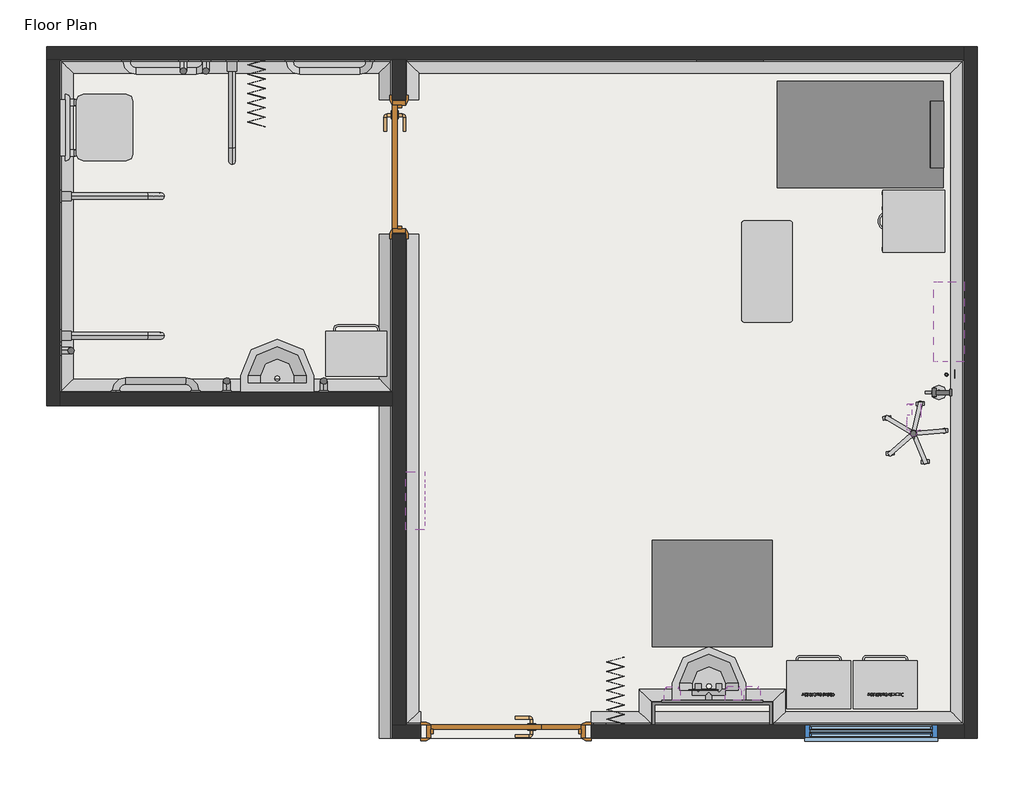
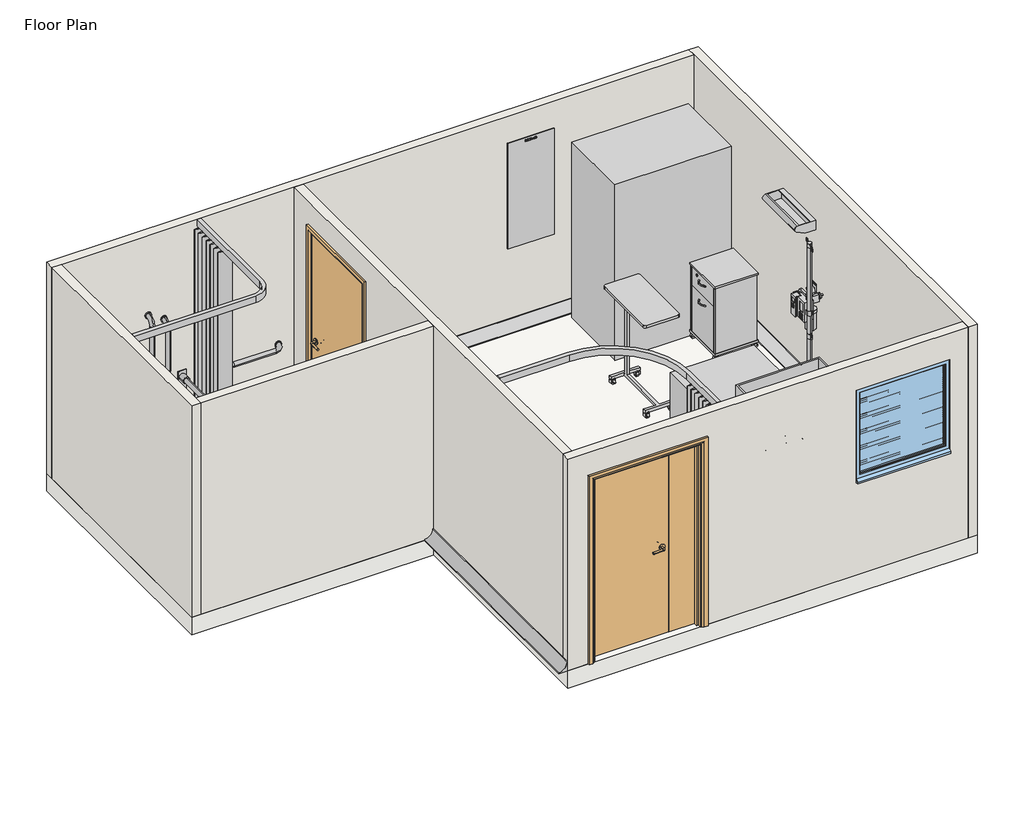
# One storey, incomplete: 28 proxies, 11 furniture elements, 6 walls, 3 flow terminals, 2 doors, 1 light fixture, 1 slab, 1 window.
"""IFC4 building model written with IfcOpenShell, lengths in millimetres."""

from ifc_helpers import new_model, si_unit, frame, origin, place, context, project, spatial, polyline, circle_curve, ellipse_curve, outline, extrude, faceted_brep, transform, mapped, element, save
from ifc_brep_helpers import plane_surface, revolved_surface, advanced_brep
from components import generic_models_eee01dc3, generic_models_69a9413b, generic_models_23b3e7a1, generic_models_51914271, generic_models_60647dcf, generic_models_1c4e6ef4, generic_models_2748bf89, generic_models_abbf64a3, generic_models_7e8e4800, bimhealth_electrical_light_switch_v1_type_1_b5e59f8a, type_1_021b8e3e, type_1_3e4eb001, type_1_04eb1ea4, door_1010x2110mm_ad0e13af, bimhealth_door_and_half_1210x2110mm_sgl_swing_70a7d20a, flow_terminal_30861e1c, flow_terminal_004a381b, furniture_785aeefc, furniture_cd7ab82e, furniture_29951476, furniture_c6a9ce10, furniture_a2a9e1b6, furniture_0702ecbf, furniture_385ba860, furniture_166ce8d1, furniture_26d36cfe, furniture_197fe330, furniture_610823a6, type_1_dfacdb5c, window_e51dcf83

model = new_model("IFC4")

# Units and contexts
model_context = context("Model", 3, world=origin())
ifc_project = project(units=[si_unit("LENGTHUNIT", "METRE", prefix="MILLI")], contexts=[model_context])

# Site, building, storey
site = spatial("IfcSite", under=ifc_project)
building = spatial("IfcBuilding", under=site)
storey = spatial("IfcBuildingStorey", under=building, Name="Floor Plan", Elevation=0.0)

# Proxies
placement = place(None, origin())
element("IfcBuildingElementProxy", 1, Name="Wall Sweeps", at=placement, inside=storey, context=model_context, shape_type="AdvancedBrep", body=[
    advanced_brep(
    [(6305.0, 5415.0, 0.0), (6205.0, 5315.0, 0.0), (6205.0, 5315.0, 10.0), (6295.0, 5405.0, 100.0), (6305.0, 5415.0, 100.0), (6305.0, 415.0, 0.0), (6305.0, 415.0, 100.0), (6295.0, 425.0, 100.0), (6205.0, 515.0, 10.0), (6205.0, 515.0, 0.0)],
    [
        (0, 1),
        (1, 2),
        (2, 3, ellipse_curve(frame((6205.0, 5315.0, 100.0), z_axis=(0.7071067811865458, -0.7071067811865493, 0.0), x_axis=(-0.7071067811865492, -0.7071067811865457, 0.0)), 127.2792206, 90.0)),
        (3, 4),
        (4, 0),
        (5, 6),
        (6, 7),
        (7, 8, ellipse_curve(frame((6205.0, 515.0, 100.0), z_axis=(0.7071067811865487, 0.7071067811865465, 0.0), x_axis=(0.7071067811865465, -0.7071067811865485, 0.0)), 127.2792206, 90.0)),
        (8, 9),
        (9, 5),
        (0, 5),
        (9, 1),
        (8, 2),
        (7, 3),
        (6, 4),
    ],
    [
        plane_surface(frame((6305.0, 5415.0, 304.8), z_axis=(-0.7071067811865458, 0.7071067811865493, 0.0), x_axis=(-0.7071067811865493, -0.7071067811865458, 0.0))),
        plane_surface(frame((6305.0, 415.0, 304.8), z_axis=(-0.7071067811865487, -0.7071067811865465, 0.0), x_axis=(-0.7071067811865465, 0.7071067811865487, 0.0))),
        plane_surface(frame((6305.0, 5415.0, 0.0), z_axis=(0.0, 0.0, -1.0), x_axis=(0.0, -1.0, 0.0))),
        plane_surface(frame((6205.0, 5315.0, 0.0), z_axis=(-1.0, 0.0, 0.0), x_axis=(0.0, -1.0, 0.0))),
        revolved_surface(polyline([(6115.0, 425.0, 100.0), (6115.0, 5405.0, 100.0)]), (6205.0, 5415.0, 100.0), (0.0, -1.0, 0.0)),
        plane_surface(frame((6295.0, 5405.0, 100.0), z_axis=(0.0, 0.0, 1.0), x_axis=(0.0, -1.0, 0.0))),
        plane_surface(frame((6305.0, 5415.0, 100.0), z_axis=(1.0, 0.0, 0.0), x_axis=(0.0, -1.0, 0.0))),
    ],
    [
        (0, [[1, 2, 3, 4, 5]]),
        (1, [[6, 7, 8, 9, 10]]),
        (2, [[-1, 11, -10, 12]]),
        (3, [[-2, -12, -9, 13]]),
        (4, [[-3, -13, -8, 14]]),
        (5, [[-4, -14, -7, 15]]),
        (6, [[-5, -15, -6, -11]]),
    ],
),
])
element("IfcBuildingElementProxy", 2, Name="Wall Sweeps", at=placement, inside=storey, context=model_context, shape_type="AdvancedBrep", body=[
    advanced_brep(
    [(2220.0, 415.0, 0.0), (2220.0, 515.0, 0.0), (2220.0, 515.0, 10.0), (2220.0, 425.0, 100.0), (2220.0, 415.0, 100.0), (2105.0, 415.0, 0.0), (2105.0, 415.0, 100.0), (2115.0, 425.0, 100.0), (2205.0, 515.0, 10.0), (2205.0, 515.0, 0.0)],
    [
        (0, 1),
        (1, 2),
        (2, 3, circle_curve(frame((2220.0, 515.0, 100.0), z_axis=(-1.0, 0.0, 0.0), x_axis=(0.0, 1.0, 0.0)), 90.0)),
        (3, 4),
        (4, 0),
        (5, 6),
        (6, 7),
        (7, 8, ellipse_curve(frame((2205.0, 515.0, 100.0), z_axis=(0.7071067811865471, -0.707106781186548, 0.0), x_axis=(-0.7071067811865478, -0.7071067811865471, 0.0)), 127.2792206, 90.0)),
        (8, 9),
        (9, 5),
        (0, 5),
        (9, 1),
        (8, 2),
        (7, 3),
        (6, 4),
    ],
    [
        plane_surface(frame((2220.0, 415.0, -100.4987562), z_axis=(1.0, 0.0, 0.0), x_axis=(0.0, -1.0, 0.0))),
        plane_surface(frame((2105.0, 415.0, 304.8), z_axis=(-0.7071067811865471, 0.707106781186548, 0.0), x_axis=(0.707106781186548, 0.7071067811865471, 0.0))),
        plane_surface(frame((2220.0, 415.0, 0.0), z_axis=(0.0, 0.0, -1.0), x_axis=(-1.0, 0.0, 0.0))),
        plane_surface(frame((2220.0, 515.0, 0.0), z_axis=(0.0, 1.0, 0.0), x_axis=(-1.0, 0.0, 0.0))),
        revolved_surface(polyline([(2115.0, 605.0, 100.0), (2294.9999999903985, 605.0, 100.0)]), (2220.0, 515.0, 100.0), (-1.0, 0.0, 0.0)),
        plane_surface(frame((2220.0, 425.0, 100.0), z_axis=(0.0, 0.0, 1.0), x_axis=(-1.0, 0.0, 0.0))),
        plane_surface(frame((2220.0, 415.0, 100.0), z_axis=(0.0, -1.0, 0.0), x_axis=(-1.0, 0.0, 0.0))),
    ],
    [
        (0, [[1, 2, 3, 4, 5]]),
        (1, [[6, 7, 8, 9, 10]]),
        (2, [[-1, 11, -10, 12]]),
        (3, [[-2, -12, -9, 13]]),
        (4, [[-3, -13, -8, 14]]),
        (5, [[-4, -14, -7, 15]]),
        (6, [[-5, -15, -6, -11]]),
    ],
),
    advanced_brep(
    [(6305.0, 415.0, 0.0), (6205.0, 515.0, 0.0), (6205.0, 515.0, 10.0), (6295.0, 425.0, 100.0), (6305.0, 415.0, 100.0), (3500.0, 415.0, 0.0), (3500.0, 415.0, 100.0), (3500.0, 425.0, 100.0), (3500.0, 515.0, 10.0), (3500.0, 515.0, 0.0)],
    [
        (0, 1),
        (1, 2),
        (2, 3, ellipse_curve(frame((6205.0, 515.0, 100.0), z_axis=(-0.7071067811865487, -0.7071067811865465, 0.0), x_axis=(-0.7071067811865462, 0.7071067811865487, 0.0)), 127.2792206, 90.0)),
        (3, 4),
        (4, 0),
        (5, 6),
        (6, 7),
        (7, 8, circle_curve(frame((3500.0, 515.0, 100.0), z_axis=(1.0, 0.0, 0.0), x_axis=(0.0, 1.0, 0.0)), 90.0)),
        (8, 9),
        (9, 5),
        (0, 5),
        (9, 1),
        (8, 2),
        (7, 3),
        (6, 4),
    ],
    [
        plane_surface(frame((6305.0, 415.0, 304.8), z_axis=(0.7071067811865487, 0.7071067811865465, 0.0), x_axis=(-0.7071067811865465, 0.7071067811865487, 0.0))),
        plane_surface(frame((3500.0, 415.0, -100.4987562), z_axis=(-1.0, 0.0, 0.0), x_axis=(0.0, -1.0, 0.0))),
        plane_surface(frame((6305.0, 415.0, 0.0), z_axis=(0.0, 0.0, -1.0), x_axis=(-1.0, 0.0, 0.0))),
        plane_surface(frame((6205.0, 515.0, 0.0), z_axis=(0.0, 1.0, 0.0), x_axis=(-1.0, 0.0, 0.0))),
        revolved_surface(polyline([(3500.0, 605.0, 100.0), (6295.0, 605.0, 100.0)]), (6305.0, 515.0, 100.0), (-1.0, 0.0, 0.0)),
        plane_surface(frame((6295.0, 425.0, 100.0), z_axis=(0.0, 0.0, 1.0), x_axis=(-1.0, 0.0, 0.0))),
        plane_surface(frame((6305.0, 415.0, 100.0), z_axis=(0.0, -1.0, 0.0), x_axis=(-1.0, 0.0, 0.0))),
    ],
    [
        (0, [[1, 2, 3, 4, 5]]),
        (1, [[6, 7, 8, 9, 10]]),
        (2, [[-1, 11, -10, 12]]),
        (3, [[-2, -12, -9, 13]]),
        (4, [[-3, -13, -8, 14]]),
        (5, [[-4, -14, -7, 15]]),
        (6, [[-5, -15, -6, -11]]),
    ],
),
])
element("IfcBuildingElementProxy", 3, Name="Wall Sweeps", at=placement, inside=storey, context=model_context, shape_type="AdvancedBrep", body=[
    advanced_brep(
    [(2105.0, 415.0, 0.0), (2205.0, 515.0, 0.0), (2205.0, 515.0, 10.0), (2115.0, 425.0, 100.0), (2105.0, 415.0, 100.0), (2105.0, 4105.0, 0.0), (2105.0, 4105.0, 100.0), (2115.0, 4105.0, 100.0), (2205.0, 4105.0, 10.0), (2205.0, 4105.0, 0.0)],
    [
        (0, 1),
        (1, 2),
        (2, 3, ellipse_curve(frame((2205.0, 515.0, 100.0), z_axis=(-0.7071067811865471, 0.707106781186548, 0.0), x_axis=(0.707106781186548, 0.7071067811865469, 0.0)), 127.2792206, 90.0)),
        (3, 4),
        (4, 0),
        (5, 6),
        (6, 7),
        (7, 8, circle_curve(frame((2205.0, 4105.0, 100.0), z_axis=(0.0, -1.0, 0.0), x_axis=(1.0, 0.0, 0.0)), 90.0)),
        (8, 9),
        (9, 5),
        (0, 5),
        (9, 1),
        (8, 2),
        (7, 3),
        (6, 4),
    ],
    [
        plane_surface(frame((2105.0, 415.0, 304.8), z_axis=(0.7071067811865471, -0.707106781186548, 0.0), x_axis=(0.707106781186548, 0.7071067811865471, 0.0))),
        plane_surface(frame((2004.5012438, 4105.0, 0.0), z_axis=(0.0, 1.0, 0.0), x_axis=(0.0, 0.0, 1.0))),
        plane_surface(frame((2105.0, 415.0, 0.0), z_axis=(0.0, 0.0, -1.0), x_axis=(0.0, 1.0, 0.0))),
        plane_surface(frame((2205.0, 515.0, 0.0), z_axis=(1.0, 0.0, 0.0), x_axis=(0.0, 1.0, 0.0))),
        revolved_surface(polyline([(2295.0, 4105.0, 100.0), (2295.0, 425.0, 100.0)]), (2205.0, 415.0, 100.0), (0.0, 1.0, 0.0)),
        plane_surface(frame((2115.0, 425.0, 100.0), z_axis=(0.0, 0.0, 1.0), x_axis=(0.0, 1.0, 0.0))),
        plane_surface(frame((2105.0, 415.0, 100.0), z_axis=(-1.0, 0.0, 0.0), x_axis=(0.0, 1.0, 0.0))),
    ],
    [
        (0, [[1, 2, 3, 4, 5]]),
        (1, [[6, 7, 8, 9, 10]]),
        (2, [[-1, 11, -10, 12]]),
        (3, [[-2, -12, -9, 13]]),
        (4, [[-3, -13, -8, 14]]),
        (5, [[-4, -14, -7, 15]]),
        (6, [[-5, -15, -6, -11]]),
    ],
),
    advanced_brep(
    [(2105.0, 5115.0, 0.0), (2205.0, 5115.0, 0.0), (2205.0, 5115.0, 10.0), (2115.0, 5115.0, 100.0), (2105.0, 5115.0, 100.0), (2105.0, 5415.0, 0.0), (2105.0, 5415.0, 100.0), (2115.0, 5415.0, 100.0), (2205.0, 5415.0, 10.0), (2205.0, 5415.0, 0.0)],
    [
        (0, 1),
        (1, 2),
        (2, 3, circle_curve(frame((2205.0, 5115.0, 100.0), z_axis=(0.0, 1.0, 0.0), x_axis=(1.0, 0.0, 0.0)), 90.0)),
        (3, 4),
        (4, 0),
        (5, 6),
        (6, 7),
        (7, 8, circle_curve(frame((2205.0, 5415.0, 100.0), z_axis=(0.0, -1.0, 0.0), x_axis=(1.0, 0.0, 0.0)), 90.0)),
        (8, 9),
        (9, 5),
        (0, 5),
        (9, 1),
        (8, 2),
        (7, 3),
        (6, 4),
    ],
    [
        plane_surface(frame((2004.5012438, 5115.0, 0.0), z_axis=(0.0, -1.0, 0.0), x_axis=(0.0, 0.0, 1.0))),
        plane_surface(frame((2004.5012438, 5415.0, 0.0), z_axis=(0.0, 1.0, 0.0), x_axis=(0.0, 0.0, 1.0))),
        plane_surface(frame((2105.0, 5115.0, 0.0), z_axis=(0.0, 0.0, -1.0), x_axis=(0.0, 1.0, 0.0))),
        plane_surface(frame((2205.0, 5115.0, 0.0), z_axis=(1.0, 0.0, 0.0), x_axis=(0.0, 1.0, 0.0))),
        revolved_surface(polyline([(2295.0, 5415.0, 100.0), (2295.0, 5115.0, 100.0)]), (2205.0, 5115.0, 100.0), (0.0, 1.0, 0.0)),
        plane_surface(frame((2115.0, 5115.0, 100.0), z_axis=(0.0, 0.0, 1.0), x_axis=(0.0, 1.0, 0.0))),
        plane_surface(frame((2105.0, 5115.0, 100.0), z_axis=(-1.0, 0.0, 0.0), x_axis=(0.0, 1.0, 0.0))),
    ],
    [
        (0, [[1, 2, 3, 4, 5]]),
        (1, [[6, 7, 8, 9, 10]]),
        (2, [[-1, 11, -10, 12]]),
        (3, [[-2, -12, -9, 13]]),
        (4, [[-3, -13, -8, 14]]),
        (5, [[-4, -14, -7, 15]]),
        (6, [[-5, -15, -6, -11]]),
    ],
),
])
element("IfcBuildingElementProxy", 4, Name="Wall Sweeps", at=placement, inside=storey, context=model_context, shape_type="AdvancedBrep", body=[
    advanced_brep(
    [(-495.0, 5415.0, 0.0), (-395.0, 5315.0, 0.0), (-395.0, 5315.0, 10.0), (-485.0, 5405.0, 100.0), (-495.0, 5415.0, 100.0), (6305.0, 5415.0, 0.0), (6305.0, 5415.0, 100.0), (6295.0, 5405.0, 100.0), (6205.0, 5315.0, 10.0), (6205.0, 5315.0, 0.0)],
    [
        (0, 1),
        (1, 2),
        (2, 3, ellipse_curve(frame((-395.0, 5315.0, 100.0), z_axis=(0.7071067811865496, 0.7071067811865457, 0.0), x_axis=(0.7071067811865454, -0.7071067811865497, 0.0)), 127.2792206, 90.0)),
        (3, 4),
        (4, 0),
        (5, 6),
        (6, 7),
        (7, 8, ellipse_curve(frame((6205.0, 5315.0, 100.0), z_axis=(-0.7071067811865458, 0.7071067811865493, 0.0), x_axis=(0.7071067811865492, 0.7071067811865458, 0.0)), 127.2792206, 90.0)),
        (8, 9),
        (9, 5),
        (0, 5),
        (9, 1),
        (8, 2),
        (7, 3),
        (6, 4),
    ],
    [
        plane_surface(frame((-495.0, 5415.0, 304.8), z_axis=(-0.7071067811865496, -0.7071067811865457, 0.0), x_axis=(0.7071067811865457, -0.7071067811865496, 0.0))),
        plane_surface(frame((6305.0, 5415.0, 304.8), z_axis=(0.7071067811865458, -0.7071067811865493, 0.0), x_axis=(-0.7071067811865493, -0.7071067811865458, 0.0))),
        plane_surface(frame((-495.0, 5415.0, 0.0), z_axis=(0.0, 0.0, -1.0), x_axis=(1.0, 0.0, 0.0))),
        plane_surface(frame((-395.0, 5315.0, 0.0), z_axis=(0.0, -1.0, 0.0), x_axis=(1.0, 0.0, 0.0))),
        revolved_surface(polyline([(6295.0, 5225.0, 100.0), (-485.0, 5225.0, 100.0)]), (-495.0, 5315.0, 100.0), (1.0, 0.0, 0.0)),
        plane_surface(frame((-485.0, 5405.0, 100.0), z_axis=(0.0, 0.0, 1.0), x_axis=(1.0, 0.0, 0.0))),
        plane_surface(frame((-495.0, 5415.0, 100.0), z_axis=(0.0, 1.0, 0.0), x_axis=(1.0, 0.0, 0.0))),
    ],
    [
        (0, [[1, 2, 3, 4, 5]]),
        (1, [[6, 7, 8, 9, 10]]),
        (2, [[-1, 11, -10, 12]]),
        (3, [[-2, -12, -9, 13]]),
        (4, [[-3, -13, -8, 14]]),
        (5, [[-4, -14, -7, 15]]),
        (6, [[-5, -15, -6, -11]]),
    ],
),
])
element("IfcBuildingElementProxy", 5, Name="Wall Sweeps", at=placement, inside=storey, context=model_context, shape_type="AdvancedBrep", body=[
    advanced_brep(
    [(-495.0, 5415.0, 0.0), (-495.0, 5415.0, 100.0), (-485.0, 5405.0, 100.0), (-395.0, 5315.0, 10.0), (-395.0, 5315.0, 0.0), (-495.0, 2915.0, 0.0), (-395.0, 3015.0, 0.0), (-395.0, 3015.0, 10.0), (-485.0, 2925.0, 100.0), (-495.0, 2915.0, 100.0)],
    [
        (0, 1),
        (1, 2),
        (2, 3, ellipse_curve(frame((-395.0, 5315.0, 100.0), z_axis=(-0.7071067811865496, -0.7071067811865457, 0.0), x_axis=(0.7071067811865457, -0.7071067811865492, 0.0)), 127.2792206, 90.0)),
        (3, 4),
        (4, 0),
        (5, 6),
        (6, 7),
        (7, 8, ellipse_curve(frame((-395.0, 3015.0, 100.0), z_axis=(-0.707106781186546, 0.7071067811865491, 0.0), x_axis=(-0.7071067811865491, -0.7071067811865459, 0.0)), 127.2792206, 90.0)),
        (8, 9),
        (9, 5),
        (0, 5),
        (9, 1),
        (8, 2),
        (7, 3),
        (6, 4),
    ],
    [
        plane_surface(frame((-495.0, 5415.0, -304.8), z_axis=(0.7071067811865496, 0.7071067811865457, 0.0), x_axis=(0.7071067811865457, -0.7071067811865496, 0.0))),
        plane_surface(frame((-495.0, 2915.0, -304.8), z_axis=(0.707106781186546, -0.7071067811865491, 0.0), x_axis=(0.7071067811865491, 0.707106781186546, 0.0))),
        plane_surface(frame((-495.0, 5415.0, 0.0), z_axis=(-1.0, 0.0, 0.0), x_axis=(0.0, -1.0, 0.0))),
        plane_surface(frame((-495.0, 5415.0, 100.0), z_axis=(0.0, 0.0, 1.0), x_axis=(0.0, -1.0, 0.0))),
        revolved_surface(polyline([(-305.0, 2925.0, 100.0), (-305.0, 5405.0, 100.0)]), (-395.0, 5415.0, 100.0), (0.0, -1.0, 0.0)),
        plane_surface(frame((-395.0, 5315.0, 10.0), z_axis=(1.0, 0.0, 0.0), x_axis=(0.0, -1.0, 0.0))),
        plane_surface(frame((-395.0, 5315.0, 0.0), z_axis=(0.0, 0.0, -1.0), x_axis=(0.0, -1.0, 0.0))),
    ],
    [
        (0, [[1, 2, 3, 4, 5]]),
        (1, [[6, 7, 8, 9, 10]]),
        (2, [[-1, 11, -10, 12]]),
        (3, [[-2, -12, -9, 13]]),
        (4, [[-3, -13, -8, 14]]),
        (5, [[-4, -14, -7, 15]]),
        (6, [[-5, -15, -6, -11]]),
    ],
),
])
element("IfcBuildingElementProxy", 6, Name="Wall Sweeps", at=placement, inside=storey, context=model_context, shape_type="AdvancedBrep", body=[
    advanced_brep(
    [(-495.0, 2915.0, 0.0), (-495.0, 2915.0, 100.0), (-485.0, 2925.0, 100.0), (-395.0, 3015.0, 10.0), (-395.0, 3015.0, 0.0), (2005.0, 2915.0, 0.0), (2005.0, 3015.0, 0.0), (2005.0, 3015.0, 10.0), (2005.0, 2925.0, 100.0), (2005.0, 2915.0, 100.0)],
    [
        (0, 1),
        (1, 2),
        (2, 3, ellipse_curve(frame((-395.0, 3015.0, 100.0), z_axis=(0.707106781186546, -0.7071067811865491, 0.0), x_axis=(0.707106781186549, 0.707106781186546, 0.0)), 127.2792206, 90.0)),
        (3, 4),
        (4, 0),
        (5, 6),
        (6, 7),
        (7, 8, circle_curve(frame((2005.0, 3015.0, 100.0), z_axis=(-1.0, 0.0, 0.0), x_axis=(0.0, 1.0, 0.0)), 90.0)),
        (8, 9),
        (9, 5),
        (0, 5),
        (9, 1),
        (8, 2),
        (7, 3),
        (6, 4),
    ],
    [
        plane_surface(frame((-495.0, 2915.0, -304.8), z_axis=(-0.707106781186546, 0.7071067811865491, 0.0), x_axis=(0.7071067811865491, 0.707106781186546, 0.0))),
        plane_surface(frame((2005.0, 2915.0, -100.4987562), z_axis=(1.0, 0.0, 0.0), x_axis=(0.0, 1.0, 0.0))),
        plane_surface(frame((-495.0, 2915.0, 0.0), z_axis=(0.0, -1.0, 0.0), x_axis=(1.0, 0.0, 0.0))),
        plane_surface(frame((-495.0, 2915.0, 100.0), z_axis=(0.0, 0.0, 1.0), x_axis=(1.0, 0.0, 0.0))),
        revolved_surface(polyline([(2005.0, 3105.0, 100.0), (-485.0, 3105.0, 100.0)]), (-495.0, 3015.0, 100.0), (1.0, 0.0, 0.0)),
        plane_surface(frame((-395.0, 3015.0, 10.0), z_axis=(0.0, 1.0, 0.0), x_axis=(1.0, 0.0, 0.0))),
        plane_surface(frame((-395.0, 3015.0, 0.0), z_axis=(0.0, 0.0, -1.0), x_axis=(1.0, 0.0, 0.0))),
    ],
    [
        (0, [[1, 2, 3, 4, 5]]),
        (1, [[6, 7, 8, 9, 10]]),
        (2, [[-1, 11, -10, 12]]),
        (3, [[-2, -12, -9, 13]]),
        (4, [[-3, -13, -8, 14]]),
        (5, [[-4, -14, -7, 15]]),
        (6, [[-5, -15, -6, -11]]),
    ],
),
])
element("IfcBuildingElementProxy", 7, Name="Wall Sweeps", at=placement, inside=storey, context=model_context, shape_type="AdvancedBrep", body=[
    advanced_brep(
    [(2005.0, 315.0, 0.0), (2005.0, 315.0, 100.0), (1995.0, 315.0, 100.0), (1905.0, 315.0, 10.0), (1905.0, 315.0, 0.0), (2005.0, 4105.0, 0.0), (1905.0, 4105.0, 0.0), (1905.0, 4105.0, 10.0), (1995.0, 4105.0, 100.0), (2005.0, 4105.0, 100.0), (2005.0, 415.0, 0.0)],
    [
        (0, 1),
        (1, 2),
        (2, 3, circle_curve(frame((1905.0, 315.0, 100.0), z_axis=(0.0, 1.0, 0.0), x_axis=(-1.0, 0.0, 0.0)), 90.0)),
        (3, 4),
        (4, 0),
        (5, 6),
        (6, 7),
        (7, 8, circle_curve(frame((1905.0, 4105.0, 100.0), z_axis=(0.0, -1.0, 0.0), x_axis=(-1.0, 0.0, 0.0)), 90.0)),
        (8, 9),
        (9, 5),
        (0, 10),
        (10, 5),
        (9, 1),
        (8, 2),
        (7, 3),
        (6, 4),
    ],
    [
        plane_surface(frame((1904.5012438, 315.0, 0.0), z_axis=(0.0, -1.0, 0.0), x_axis=(0.0, 0.0, 1.0))),
        plane_surface(frame((1904.5012438, 4105.0, 0.0), z_axis=(0.0, 1.0, 0.0), x_axis=(0.0, 0.0, 1.0))),
        plane_surface(frame((2005.0, 315.0, 0.0), z_axis=(1.0, 0.0, 0.0), x_axis=(0.0, 1.0, 0.0))),
        plane_surface(frame((2005.0, 315.0, 100.0), z_axis=(0.0, 0.0, 1.0), x_axis=(0.0, 1.0, 0.0))),
        revolved_surface(polyline([(1815.0, 4105.0, 100.0), (1815.0, 315.0, 100.0)]), (1905.0, 315.0, 100.0), (0.0, 1.0, 0.0)),
        plane_surface(frame((1905.0, 315.0, 10.0), z_axis=(-1.0, 0.0, 0.0), x_axis=(0.0, 1.0, 0.0))),
        plane_surface(frame((1905.0, 315.0, 0.0), z_axis=(0.0, 0.0, -1.0), x_axis=(0.0, 1.0, 0.0))),
    ],
    [
        (0, [[1, 2, 3, 4, 5]]),
        (1, [[6, 7, 8, 9, 10]]),
        (2, [[-1, 11, 12, -10, 13]]),
        (3, [[-2, -13, -9, 14]]),
        (4, [[-3, -14, -8, 15]]),
        (5, [[-4, -15, -7, 16]]),
        (6, [[-5, -16, -6, -12, -11]]),
    ],
),
    advanced_brep(
    [(2005.0, 5115.0, 0.0), (2005.0, 5115.0, 100.0), (1995.0, 5115.0, 100.0), (1905.0, 5115.0, 10.0), (1905.0, 5115.0, 0.0), (2005.0, 5415.0, 0.0), (1905.0, 5415.0, 0.0), (1905.0, 5415.0, 10.0), (1995.0, 5415.0, 100.0), (2005.0, 5415.0, 100.0)],
    [
        (0, 1),
        (1, 2),
        (2, 3, circle_curve(frame((1905.0, 5115.0, 100.0), z_axis=(0.0, 1.0, 0.0), x_axis=(-1.0, 0.0, 0.0)), 90.0)),
        (3, 4),
        (4, 0),
        (5, 6),
        (6, 7),
        (7, 8, circle_curve(frame((1905.0, 5415.0, 100.0), z_axis=(0.0, -1.0, 0.0), x_axis=(-1.0, 0.0, 0.0)), 90.0)),
        (8, 9),
        (9, 5),
        (0, 5),
        (9, 1),
        (8, 2),
        (7, 3),
        (6, 4),
    ],
    [
        plane_surface(frame((1904.5012438, 5115.0, 0.0), z_axis=(0.0, -1.0, 0.0), x_axis=(0.0, 0.0, 1.0))),
        plane_surface(frame((1904.5012438, 5415.0, 0.0), z_axis=(0.0, 1.0, 0.0), x_axis=(0.0, 0.0, 1.0))),
        plane_surface(frame((2005.0, 5115.0, 0.0), z_axis=(1.0, 0.0, 0.0), x_axis=(0.0, 1.0, 0.0))),
        plane_surface(frame((2005.0, 5115.0, 100.0), z_axis=(0.0, 0.0, 1.0), x_axis=(0.0, 1.0, 0.0))),
        revolved_surface(polyline([(1815.0, 5415.0, 100.0), (1815.0, 5115.0, 100.0)]), (1905.0, 5115.0, 100.0), (0.0, 1.0, 0.0)),
        plane_surface(frame((1905.0, 5115.0, 10.0), z_axis=(-1.0, 0.0, 0.0), x_axis=(0.0, 1.0, 0.0))),
        plane_surface(frame((1905.0, 5115.0, 0.0), z_axis=(0.0, 0.0, -1.0), x_axis=(0.0, 1.0, 0.0))),
    ],
    [
        (0, [[1, 2, 3, 4, 5]]),
        (1, [[6, 7, 8, 9, 10]]),
        (2, [[-1, 11, -10, 12]]),
        (3, [[-2, -12, -9, 13]]),
        (4, [[-3, -13, -8, 14]]),
        (5, [[-4, -14, -7, 15]]),
        (6, [[-5, -15, -6, -11]]),
    ],
),
])
generic_models_shape = generic_models_eee01dc3(model_context)
element("IfcBuildingElementProxy", 8, Name="BIMHealth-Table_Overbed-LOD2A-v1 : BIMHealth-Table_Overbed-LOD2A-v1", ObjectType="BIMHealth-Table_Overbed-LOD2A-v1 : BIMHealth-Table_Overbed-LOD2A-v1", at=placement, inside=storey, context=model_context, shape_type="MappedRepresentation", body=[
    mapped(generic_models_shape, transform((5013.7834569, 4204.5, 0.0), x_axis=(0.0, -1.0000000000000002, 0.0), y_axis=(1.0000000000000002, 0.0, 0.0), z_axis=(0.0, 0.0, 1.0))),
])
generic_models_2_shape = generic_models_69a9413b(model_context)
element("IfcBuildingElementProxy", 9, Name="BIMHealth-Drip_Stand-LOD2A-v1 : BIMHealth-Drip_Stand-LOD2A-v1", ObjectType="BIMHealth-Drip_Stand-LOD2A-v1 : BIMHealth-Drip_Stand-LOD2A-v1", at=placement, inside=storey, context=model_context, shape_type="MappedRepresentation", body=[
    mapped(generic_models_2_shape, transform((5923.0037354, 2605.3435148, 0.0), x_axis=(-0.08715574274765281, 0.9961946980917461, 0.0), y_axis=(-0.9961946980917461, -0.08715574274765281, 0.0), z_axis=(0.0, 0.0, 1.0))),
])
generic_models_3_shape = generic_models_23b3e7a1(model_context)
element("IfcBuildingElementProxy", 10, Name="BIMHealth-IV_Pump-LOD2A-v1 : BIMHealth-IV_Pump-LOD2A-v1", ObjectType="BIMHealth-IV_Pump-LOD2A-v1 : BIMHealth-IV_Pump-LOD2A-v1", at=placement, inside=storey, context=model_context, shape_type="MappedRepresentation", body=[
    mapped(generic_models_3_shape, transform((5977.0111903, 2628.228362, 0.0), x_axis=(0.0, 1.0000000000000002, 0.0), y_axis=(-1.0000000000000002, 0.0, 0.0), z_axis=(0.0, 0.0, 1.0))),
])
generic_models_4_shape = generic_models_51914271(model_context)
element("IfcBuildingElementProxy", 11, Name="BIMHealth-Locker_Bedside-LOD2A-v1 : BIMHealth-Locker_Bedside-LOD2A-v1", ObjectType="BIMHealth-Locker_Bedside-LOD2A-v1 : BIMHealth-Locker_Bedside-LOD2A-v1", at=placement, inside=storey, context=model_context, shape_type="MappedRepresentation", body=[
    mapped(generic_models_4_shape, transform((6150.0, 4477.5, 0.0), x_axis=(0.0, -1.0000000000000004, 0.0), y_axis=(1.0000000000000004, 0.0, 0.0), z_axis=(0.0, 0.0, 1.0))),
])
generic_models_5_shape = generic_models_60647dcf(model_context)
element("IfcBuildingElementProxy", 12, Name="BIMHealth-Flowmeter_Oxygen-LOD2A-v1 : BIMHealth-Flowmeter_Oxygen-LOD2A-v1", ObjectType="BIMHealth-Flowmeter_Oxygen-LOD2A-v1 : BIMHealth-Flowmeter_Oxygen-LOD2A-v1", at=placement, inside=storey, context=model_context, shape_type="MappedRepresentation", body=[
    mapped(generic_models_5_shape, transform((6172.1875, 3047.6875, 0.0), x_axis=(0.0, 1.0000000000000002, 0.0), y_axis=(-1.0000000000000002, 0.0, 0.0), z_axis=(0.0, 0.0, 1.0))),
])
generic_models_6_shape = generic_models_1c4e6ef4(model_context)
element("IfcBuildingElementProxy", 13, Name="BIMHealth-Flowmeter_Suction-LOD2A-v1 : BIMHealth-Flowmeter_Suction-LOD2A-v1", ObjectType="BIMHealth-Flowmeter_Suction-LOD2A-v1 : BIMHealth-Flowmeter_Suction-LOD2A-v1", at=placement, inside=storey, context=model_context, shape_type="MappedRepresentation", body=[
    mapped(generic_models_6_shape, transform((6095.0, 2912.5, 0.0), x_axis=(0.0, -1.0, 0.0), y_axis=(1.0, 0.0, 0.0), z_axis=(0.0, 0.0, 1.0))),
])
generic_models_7_shape = generic_models_2748bf89(model_context)
element("IfcBuildingElementProxy", 14, Name="BIMHealth-Seat_Shower-LOD2A-v1 : BIMHealth-Seat_Shower-LOD2A-v1", ObjectType="BIMHealth-Seat_Shower-LOD2A-v1 : BIMHealth-Seat_Shower-LOD2A-v1", at=placement, inside=storey, context=model_context, shape_type="MappedRepresentation", body=[
    mapped(generic_models_7_shape, transform((-495.0, 4655.0, 0.0), x_axis=(0.0, 1.0000000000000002, 0.0), y_axis=(-1.0000000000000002, 0.0, 0.0), z_axis=(0.0, 0.0, 1.0))),
])
generic_models_8_shape = generic_models_abbf64a3(model_context)
element("IfcBuildingElementProxy", 15, Name="BIMHealth-Hand_Cream_Dispenser-LOD2A-v1 : BIMHealth-Hand_Cream_Dispenser-LOD2A-v1", ObjectType="BIMHealth-Hand_Cream_Dispenser-LOD2A-v1 : BIMHealth-Hand_Cream_Dispenser-LOD2A-v1", at=placement, inside=storey, context=model_context, shape_type="MappedRepresentation", body=[
    mapped(generic_models_8_shape, transform((4627.6775216, 601.0, 150.0), x_axis=(-1.0000000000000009, 0.0, 0.0), y_axis=(0.0, -1.0000000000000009, 0.0), z_axis=(0.0, 0.0, 1.0))),
])
generic_models_9_shape = generic_models_7e8e4800(model_context)
element("IfcBuildingElementProxy", 16, Name="BIMHealth-Danicentre_ppe_Dispenser-LOD2A-v1 : BIMHealth-Danicentre_ppe_Dispenser-LOD2A-v1", ObjectType="BIMHealth-Danicentre_ppe_Dispenser-LOD2A-v1 : BIMHealth-Danicentre_ppe_Dispenser-LOD2A-v1", at=placement, inside=storey, context=model_context, shape_type="MappedRepresentation", body=[
    mapped(generic_models_9_shape, transform((2250.0, 2317.5, 0.0), x_axis=(0.0, -1.000000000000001, 0.0), y_axis=(1.000000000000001, 0.0, 0.0), z_axis=(0.0, 0.0, 1.0))),
])
bimhealth_electrical_light_switch_v1_type_1_shape = bimhealth_electrical_light_switch_v1_type_1_b5e59f8a(model_context)
element("IfcBuildingElementProxy", 17, Name="BIMHealth-Electrical-Light_Switch-v1 : Type 1", ObjectType="BIMHealth-Electrical-Light_Switch-v1 : Type 1", at=placement, inside=storey, context=model_context, shape_type="MappedRepresentation", body=[
    mapped(bimhealth_electrical_light_switch_v1_type_1_shape, transform((3395.0, 365.0, -60.0), x_axis=(1.0, 0.0, 0.0), y_axis=(0.0, 1.0, 0.0), z_axis=(0.0, 0.0, 1.0))),
])
type_1_shape = type_1_021b8e3e(model_context)
element("IfcBuildingElementProxy", 18, Name="BIMHealth-Grab_Rail_Horizontal-LOD2A-v1 : Type 1", ObjectType="BIMHealth-Grab_Rail_Horizontal-LOD2A-v1 : Type 1", at=placement, inside=storey, context=model_context, shape_type="MappedRepresentation", body=[
    mapped(type_1_shape, transform((100.0, 2865.0, 0.0), x_axis=(1.0, 0.0, 0.0), y_axis=(0.0, 1.0, 0.0), z_axis=(0.0, 0.0, 1.0))),
])
element("IfcBuildingElementProxy", 19, Name="BIMHealth-Grab_Rail_Horizontal-LOD2A-v1 : Type 1", ObjectType="BIMHealth-Grab_Rail_Horizontal-LOD2A-v1 : Type 1", at=placement, inside=storey, context=model_context, shape_type="MappedRepresentation", body=[
    mapped(type_1_shape, transform((430.0, 5465.0, 0.0), x_axis=(-1.0, 0.0, 0.0), y_axis=(0.0, -1.0, 0.0), z_axis=(0.0, 0.0, 1.0))),
])
element("IfcBuildingElementProxy", 20, Name="BIMHealth-Grab_Rail_Horizontal-LOD2A-v1 : Type 1", ObjectType="BIMHealth-Grab_Rail_Horizontal-LOD2A-v1 : Type 1", at=placement, inside=storey, context=model_context, shape_type="MappedRepresentation", body=[
    mapped(type_1_shape, transform((1658.5052831, 5465.0, 0.0), x_axis=(-1.0, 0.0, 0.0), y_axis=(0.0, -1.0, 0.0), z_axis=(0.0, 0.0, 1.0))),
])
type_1_2_shape = type_1_3e4eb001(model_context)
element("IfcBuildingElementProxy", 21, Name="BIMHealth-Grab_Rail_Vertical-LOD2A-v1 : Type 1", ObjectType="BIMHealth-Grab_Rail_Vertical-LOD2A-v1 : Type 1", at=placement, inside=storey, context=model_context, shape_type="MappedRepresentation", body=[
    mapped(type_1_2_shape, transform((1365.0, 2865.0, 0.0), x_axis=(1.0, 0.0, 0.0), y_axis=(0.0, 1.0, 0.0), z_axis=(0.0, 0.0, 1.0))),
])
element("IfcBuildingElementProxy", 22, Name="BIMHealth-Grab_Rail_Vertical-LOD2A-v1 : Type 1", ObjectType="BIMHealth-Grab_Rail_Vertical-LOD2A-v1 : Type 1", at=placement, inside=storey, context=model_context, shape_type="MappedRepresentation", body=[
    mapped(type_1_2_shape, transform((635.0, 2865.0, 0.0), x_axis=(1.0, 0.0, 0.0), y_axis=(0.0, 1.0, 0.0), z_axis=(0.0, 0.0, 1.0))),
])
element("IfcBuildingElementProxy", 23, Name="BIMHealth-Grab_Rail_Vertical-LOD2A-v1 : Type 1", ObjectType="BIMHealth-Grab_Rail_Vertical-LOD2A-v1 : Type 1", at=placement, inside=storey, context=model_context, shape_type="MappedRepresentation", body=[
    mapped(type_1_2_shape, transform((-545.0, 3355.0, 0.0), x_axis=(0.0, -1.0, 0.0), y_axis=(1.0, 0.0, 0.0), z_axis=(0.0, 0.0, 1.0))),
])
element("IfcBuildingElementProxy", 24, Name="BIMHealth-Grab_Rail_Vertical-LOD2A-v1 : Type 1", ObjectType="BIMHealth-Grab_Rail_Vertical-LOD2A-v1 : Type 1", at=placement, inside=storey, context=model_context, shape_type="MappedRepresentation", body=[
    mapped(type_1_2_shape, transform((730.0, 5465.0, 0.0), x_axis=(-1.0, 0.0, 0.0), y_axis=(0.0, -1.0, 0.0), z_axis=(0.0, 0.0, 1.0))),
])
element("IfcBuildingElementProxy", 25, Name="BIMHealth-Grab_Rail_Vertical-LOD2A-v1 : Type 1", ObjectType="BIMHealth-Grab_Rail_Vertical-LOD2A-v1 : Type 1", at=placement, inside=storey, context=model_context, shape_type="MappedRepresentation", body=[
    mapped(type_1_2_shape, transform((560.0, 5465.0, 100.0), x_axis=(-1.0, 0.0, 0.0), y_axis=(0.0, -1.0, 0.0), z_axis=(0.0, 0.0, 1.0))),
])
type_1_3_shape = type_1_04eb1ea4(model_context)
element("IfcBuildingElementProxy", 26, Name="BIMHealth-Grab_Rail_Drop_Down-LOD2A-v1 : Type 1", ObjectType="BIMHealth-Grab_Rail_Drop_Down-LOD2A-v1 : Type 1", at=placement, inside=storey, context=model_context, shape_type="MappedRepresentation", body=[
    mapped(type_1_3_shape, transform((-545.0, 3465.0, 0.0), x_axis=(0.0, -1.0, 0.0), y_axis=(1.0, 0.0, 0.0), z_axis=(0.0, 0.0, 1.0))),
])
element("IfcBuildingElementProxy", 27, Name="BIMHealth-Grab_Rail_Drop_Down-LOD2A-v1 : Type 1", ObjectType="BIMHealth-Grab_Rail_Drop_Down-LOD2A-v1 : Type 1", at=placement, inside=storey, context=model_context, shape_type="MappedRepresentation", body=[
    mapped(type_1_3_shape, transform((925.0, 5465.0, 0.0), x_axis=(-1.0, 0.0, 0.0), y_axis=(0.0, -1.0, 0.0), z_axis=(0.0, 0.0, 1.0))),
])
element("IfcBuildingElementProxy", 28, Name="BIMHealth-Grab_Rail_Drop_Down-LOD2A-v1 : Type 1", ObjectType="BIMHealth-Grab_Rail_Drop_Down-LOD2A-v1 : Type 1", at=placement, inside=storey, context=model_context, shape_type="MappedRepresentation", body=[
    mapped(type_1_3_shape, transform((-545.0, 4515.0, 0.0), x_axis=(0.0, -1.0, 0.0), y_axis=(1.0, 0.0, 0.0), z_axis=(0.0, 0.0, 1.0))),
])

# Doors
door_1010x2110mm_shape = door_1010x2110mm_ad0e13af(model_context)
element("IfcDoor", 29, ObjectType="BIMHealth-Single_Door-LOD2A-v1 : 1010x2110mm", at=placement, inside=storey, context=model_context, shape_type="MappedRepresentation", body=[
    mapped(door_1010x2110mm_shape, transform((2055.0, 4610.0, 0.0), x_axis=(0.0, -1.0, 0.0), y_axis=(1.0, 0.0, 0.0), z_axis=(0.0, 0.0, 1.0))),
])
bimhealth_door_and_half_1210x2110mm_sgl_swing_shape = bimhealth_door_and_half_1210x2110mm_sgl_swing_70a7d20a(model_context)
element("IfcDoor", 30, ObjectType="BIMHealth-Door_and_half : 1210x2110mm-Sgl_Swing", at=placement, inside=storey, context=model_context, shape_type="MappedRepresentation", body=[
    mapped(bimhealth_door_and_half_1210x2110mm_sgl_swing_shape, transform((3099.0, 365.0, 0.0), x_axis=(-1.0, 0.0, 0.0), y_axis=(0.0, -1.0, 0.0), z_axis=(0.0, 0.0, 1.0))),
])

# Flow terminals
flow_terminal_shape = flow_terminal_30861e1c(model_context)
element("IfcFlowTerminal", 31, ObjectType="BIMHealth-Wash_basin_Doc_M-LOD2A-v1 : BIMHealth-Wash_basin_Doc_M-LOD2A-v1", at=placement, inside=storey, context=model_context, shape_type="MappedRepresentation", body=[
    mapped(flow_terminal_shape, transform((1415.0, 2915.0, 500.0), x_axis=(-1.0000000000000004, 0.0, 0.0), y_axis=(0.0, -1.0000000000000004, 0.0), z_axis=(0.0, 0.0, 1.0))),
])
flow_terminal_2_shape = flow_terminal_004a381b(model_context)
element("IfcFlowTerminal", 32, ObjectType="BIMHealth-Taps_IPS-LOD2A-v1 : BIMHealth-Taps_IPS-LOD2A-v1", at=placement, inside=storey, context=model_context, shape_type="MappedRepresentation", body=[
    mapped(flow_terminal_2_shape, transform((4508.6392205, 659.1543621, 1022.0), x_axis=(-1.0000000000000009, 0.0, 0.0), y_axis=(0.0, -1.0000000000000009, 0.0), z_axis=(0.0, 0.0, 1.0))),
])
element("IfcFlowTerminal", 33, ObjectType="BIMHealth-Wash_basin-LOD2A-v1 : BIMHealth-Wash_basin-LOD2A-v1", at=placement, inside=storey, context=model_context, shape_type="MappedRepresentation", body=[
    mapped(flow_terminal_shape, transform((4661.1392205, 601.0, 500.0), x_axis=(-1.0000000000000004, 0.0, 0.0), y_axis=(0.0, -1.0000000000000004, 0.0), z_axis=(0.0, 0.0, 1.0))),
])

# Furniture
furniture_shape = furniture_785aeefc(model_context)
element("IfcFurniture", 34, ObjectType="BIMHealth-Chair_High_Back-LOD2A-v1 : BIMHealth-Chair_High_Back-LOD2A-v1", at=placement, inside=storey, context=model_context, shape_type="MappedRepresentation", body=[
    mapped(furniture_shape, transform((6149.2819597, 5150.0, 0.0), x_axis=(0.0, -1.0, 0.0), y_axis=(1.0, 0.0, 0.0), z_axis=(0.0, 0.0, 1.0))),
])
furniture_2_shape = furniture_cd7ab82e(model_context)
element("IfcFurniture", 35, ObjectType="BIMHealth-Curtain_Bed-LOD2A-v1 : BIMHealth-Curtain_Bed-LOD2A-v1", at=placement, inside=storey, context=model_context, shape_type="MappedRepresentation", body=[
    mapped(furniture_2_shape, transform((3705.0, 420.0, 0.0), x_axis=(0.0, 1.0, 0.0), y_axis=(-1.0, 0.0, 0.0), z_axis=(0.0, 0.0, 1.0))),
])
furniture_3_shape = furniture_29951476(model_context)
element("IfcFurniture", 36, ObjectType="BIMHealth-Mirror_Consultation-LOD2A-v1 : BIMHealth-Mirror_Consultation-LOD2A-v1", at=placement, inside=storey, context=model_context, shape_type="MappedRepresentation", body=[
    mapped(furniture_3_shape, transform((4295.0, 5415.0, 0.0), x_axis=(1.0, 0.0, 0.0), y_axis=(0.0, 1.0, 0.0), z_axis=(0.0, 0.0, 1.0))),
])
furniture_4_shape = furniture_c6a9ce10(model_context)
element("IfcFurniture", 37, ObjectType="BIMHealth-Bin_Clinical_Foot_Operated-LOD2A-v1 : BIMHealth-Bin_Clinical_Foot_Operated-LOD2A-v1", at=placement, inside=storey, context=model_context, shape_type="MappedRepresentation", body=[
    mapped(furniture_4_shape, transform((1955.0, 3045.0, 0.0), x_axis=(-1.0000000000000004, 0.0, 0.0), y_axis=(0.0, -1.0000000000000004, 0.0), z_axis=(0.0, 0.0, 1.0))),
])
furniture_5_shape = furniture_a2a9e1b6(model_context)
element("IfcFurniture", 38, ObjectType="BIMHealth-Curtain_Doc_M-LOD2A-v1 : BIMHealth-Curtain_Doc_M-LOD2A-v1", at=placement, inside=storey, context=model_context, shape_type="MappedRepresentation", body=[
    mapped(furniture_5_shape, transform((1005.0, 5415.0, 0.0), x_axis=(0.0, -1.0000000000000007, 0.0), y_axis=(1.0000000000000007, 0.0, 0.0), z_axis=(0.0, 0.0, 1.0))),
])
furniture_6_shape = furniture_0702ecbf(model_context)
element("IfcFurniture", 39, ObjectType="BIMHealth-Washstation-LOD2A-v1 : BIMHealth-Washstation-LOD2A-v1", at=placement, inside=storey, context=model_context, shape_type="MappedRepresentation", body=[
    mapped(furniture_6_shape, transform((3961.1392205, 415.0, 0.0), x_axis=(-1.0000000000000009, 0.0, 0.0), y_axis=(0.0, -1.0000000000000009, 0.0), z_axis=(0.0, 0.0, 1.0))),
])
furniture_7_shape = furniture_385ba860(model_context)
element("IfcFurniture", 40, ObjectType="BIMHealth-Alcohol_gel_dispenser-LOD2A-v1 : BIMHealth-Alcohol_gel_dispenser-LOD2A-v1", at=placement, inside=storey, context=model_context, shape_type="MappedRepresentation", body=[
    mapped(furniture_7_shape, transform((4170.3818356, 601.0, 150.0), x_axis=(-1.0000000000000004, 0.0, 0.0), y_axis=(0.0, -1.0000000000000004, 0.0), z_axis=(0.0, 0.0, 1.0))),
])
furniture_8_shape = furniture_166ce8d1(model_context)
element("IfcFurniture", 41, ObjectType="BIMHealth-Paper_Towel_Dispenser-LOD2A-v1 : BIMHealth-Paper_Towel_Dispenser-LOD2A-v1", at=placement, inside=storey, context=model_context, shape_type="MappedRepresentation", body=[
    mapped(furniture_8_shape, transform((4485.0, 601.0, 20.0), x_axis=(-1.0000000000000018, 0.0, 0.0), y_axis=(0.0, -1.0000000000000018, 0.0), z_axis=(0.0, 0.0, 1.0))),
])
furniture_9_shape = furniture_26d36cfe(model_context)
element("IfcFurniture", 42, ObjectType="BIMHealth-Soap_Dispenser-LOD2A-v1 : BIMHealth-Soap_Dispenser-LOD2A-v1", at=placement, inside=storey, context=model_context, shape_type="MappedRepresentation", body=[
    mapped(furniture_9_shape, transform((4770.3818356, 601.0, 150.0), x_axis=(-1.0000000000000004, 0.0, 0.0), y_axis=(0.0, -1.0000000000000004, 0.0), z_axis=(0.0, 0.0, 1.0))),
])
furniture_10_shape = furniture_197fe330(model_context)
element("IfcFurniture", 43, ObjectType="BIMHealth-Sack_Holder_Domestic-LOD2A-v1 : BIMHealth-Sack_Holder_Domestic-LOD2A-v1", at=placement, inside=storey, context=model_context, shape_type="MappedRepresentation", body=[
    mapped(furniture_10_shape, transform((5930.8496666, 555.0, 0.0), x_axis=(-1.0000000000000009, 0.0, 0.0), y_axis=(0.0, -1.0000000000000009, 0.0), z_axis=(0.0, 0.0, 1.0))),
])
furniture_11_shape = furniture_610823a6(model_context)
element("IfcFurniture", 44, ObjectType="BIMHealth-Sack_Holder_Clinical-LOD2A-v1 : BIMHealth-Sack_Holder_Clinical-LOD2A-v1", at=placement, inside=storey, context=model_context, shape_type="MappedRepresentation", body=[
    mapped(furniture_11_shape, transform((5430.8496666, 555.0, 0.0), x_axis=(-1.0000000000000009, 0.0, 0.0), y_axis=(0.0, -1.0000000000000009, 0.0), z_axis=(0.0, 0.0, 1.0))),
])

# Light fixture
type_1_4_shape = type_1_dfacdb5c(model_context)
element("IfcLightFixture", 45, ObjectType="BIMHealth-Lighting-Bed_Luminaire-LOD2A-v1 : Type 1", at=placement, inside=storey, context=model_context, shape_type="MappedRepresentation", body=[
    mapped(type_1_4_shape, transform((6355.0, 3320.0, -7.5), x_axis=(0.0, 1.0, 0.0), y_axis=(-1.0, 0.0, 0.0), z_axis=(0.0, 0.0, 1.0))),
])

# Slab
element("IfcSlab", 46, ObjectType="BIMHealth - Generic Floor", at=placement, inside=storey, context=model_context, shape_type="SweptSolid", body=[
    extrude(outline(polyline([(6405.0, 5515.0), (6405.0, 315.0), (2005.0, 315.0), (2005.0, 2815.0), (-595.0, 2815.0), (-595.0, 5515.0), (6405.0, 5515.0)])), frame((0.0, 0.0, -200.0), z_axis=(0.0, 0.0, 1.0), x_axis=(1.0, 0.0, 0.0)), (0.0, 0.0, 1.0), 200.0),
])

# Walls
element("IfcWall", 47, ObjectType="BIMHealth - Generic Wall", at=placement, inside=storey, context=model_context, shape_type="Brep", body=[
    faceted_brep([(6305.0, 5515.0, 0.0), (6305.0, 5415.0, 0.0), (6305.0, 415.0, 0.0), (6305.0, 315.0, 0.0), (6305.0, 315.0, 2400.0), (6305.0, 415.0, 2400.0), (6305.0, 5415.0, 2400.0), (6305.0, 5515.0, 2400.0), (6405.0, 5515.0, 0.0), (6405.0, 5515.0, 2400.0), (6405.0, 315.0, 2400.0), (6405.0, 315.0, 0.0)], [[[0, 1, 2, 3, 4, 5, 6, 7]], [[8, 9, 10, 11]], [[3, 2, 1, 0, 8, 11]], [[7, 6, 5, 4, 10, 9]], [[4, 3, 11, 10]], [[0, 7, 9, 8]]]),
])
element("IfcWall", 48, ObjectType="BIMHealth - Generic Wall", at=placement, inside=storey, context=model_context, shape_type="Brep", body=[
    faceted_brep([(2005.0, 415.0, 2400.0), (2105.0, 415.0, 2400.0), (6305.0, 415.0, 2400.0), (6305.0, 415.0, 0.0), (3500.0, 415.0, 0.0), (3500.0, 415.0, 100.0), (3500.0, 415.0, 2110.0), (2220.0, 415.0, 2110.0), (2220.0, 415.0, 100.0), (2220.0, 415.0, 0.0), (2105.0, 415.0, 0.0), (2005.0, 415.0, 0.0), (6105.0, 415.0, 1050.0), (6105.0, 415.0, 2100.0), (5105.0, 415.0, 2100.0), (5105.0, 415.0, 1050.0), (6305.0, 315.0, 2400.0), (2005.0, 315.0, 2400.0), (2005.0, 315.0, 0.0), (2220.0, 315.0, 0.0), (2220.0, 315.0, 2110.0), (3500.0, 315.0, 2110.0), (3500.0, 315.0, 0.0), (6305.0, 315.0, 0.0), (6105.0, 315.0, 1050.0), (5105.0, 315.0, 1050.0), (5105.0, 315.0, 2100.0), (6105.0, 315.0, 2100.0)], [[[0, 1, 2, 3, 4, 5, 6, 7, 8, 9, 10, 11], [12, 13, 14, 15]], [[16, 17, 18, 19, 20, 21, 22, 23], [24, 25, 26, 27]], [[3, 23, 22, 4]], [[18, 11, 10, 9, 19]], [[2, 1, 0, 17, 16]], [[3, 2, 16, 23]], [[0, 11, 18, 17]], [[7, 20, 19, 9, 8]], [[20, 7, 6, 21]], [[21, 6, 5, 4, 22]], [[13, 12, 24, 27]], [[14, 13, 27, 26]], [[15, 14, 26, 25]], [[12, 15, 25, 24]]]),
])
element("IfcWall", 49, ObjectType="BIMHealth - Generic Wall", at=placement, inside=storey, context=model_context, shape_type="Brep", body=[
    faceted_brep([(-595.0, 5415.0, 0.0), (-495.0, 5415.0, 0.0), (2005.0, 5415.0, 0.0), (2105.0, 5415.0, 0.0), (6305.0, 5415.0, 0.0), (6305.0, 5415.0, 2400.0), (2105.0, 5415.0, 2400.0), (2005.0, 5415.0, 2400.0), (-495.0, 5415.0, 2400.0), (-595.0, 5415.0, 2400.0), (-595.0, 5515.0, 0.0), (-595.0, 5515.0, 2400.0), (6305.0, 5515.0, 2400.0), (6305.0, 5515.0, 0.0)], [[[0, 1, 2, 3, 4, 5, 6, 7, 8, 9]], [[10, 11, 12, 13]], [[4, 3, 2, 1, 0, 10, 13]], [[9, 8, 7, 6, 5, 12, 11]], [[0, 9, 11, 10]], [[5, 4, 13, 12]]]),
])
element("IfcWall", 50, ObjectType="BIMHealth - Generic Wall", at=placement, inside=storey, context=model_context, shape_type="Brep", body=[
    faceted_brep([(-595.0, 5415.0, 0.0), (-595.0, 2815.0, 0.0), (-595.0, 2815.0, 2400.0), (-595.0, 5415.0, 2400.0), (-495.0, 5415.0, 0.0), (-495.0, 5415.0, 2400.0), (-495.0, 2915.0, 2400.0), (-495.0, 2815.0, 2400.0), (-495.0, 2815.0, 0.0), (-495.0, 2915.0, 0.0)], [[[0, 1, 2, 3]], [[4, 5, 6, 7, 8, 9]], [[1, 0, 4, 9, 8]], [[3, 2, 7, 6, 5]], [[0, 3, 5, 4]], [[2, 1, 8, 7]]]),
])
element("IfcWall", 51, ObjectType="BIMHealth - Generic Wall", at=placement, inside=storey, context=model_context, shape_type="Brep", body=[
    faceted_brep([(-495.0, 2815.0, 0.0), (2005.0, 2815.0, 0.0), (2005.0, 2815.0, 2400.0), (-495.0, 2815.0, 2400.0), (-495.0, 2915.0, 0.0), (-495.0, 2915.0, 2400.0), (2005.0, 2915.0, 2400.0), (2005.0, 2915.0, 100.0), (2005.0, 2915.0, 0.0)], [[[0, 1, 2, 3]], [[4, 5, 6, 7, 8]], [[1, 0, 4, 8]], [[3, 2, 6, 5]], [[0, 3, 5, 4]], [[2, 1, 8, 7, 6]]]),
])
element("IfcWall", 52, ObjectType="BIMHealth - Generic Wall 2", at=placement, inside=storey, context=model_context, shape_type="Brep", body=[
    faceted_brep([(2105.0, 5415.0, 2400.0), (2105.0, 415.0, 2400.0), (2105.0, 415.0, 0.0), (2105.0, 4105.0, 0.0), (2105.0, 4105.0, 100.0), (2105.0, 4105.0, 2110.0), (2105.0, 5115.0, 2110.0), (2105.0, 5115.0, 100.0), (2105.0, 5115.0, 0.0), (2105.0, 5415.0, 0.0), (2105.0, 5415.0, 100.0), (2005.0, 415.0, 2400.0), (2005.0, 2815.0, 2400.0), (2005.0, 2915.0, 2400.0), (2005.0, 5415.0, 2400.0), (2005.0, 5415.0, 100.0), (2005.0, 5415.0, 0.0), (2005.0, 5115.0, 0.0), (2005.0, 5115.0, 100.0), (2005.0, 5115.0, 2110.0), (2005.0, 4105.0, 2110.0), (2005.0, 4105.0, 100.0), (2005.0, 4105.0, 0.0), (2005.0, 2915.0, 0.0), (2005.0, 2815.0, 0.0), (2005.0, 415.0, 0.0)], [[[0, 1, 2, 3, 4, 5, 6, 7, 8, 9, 10]], [[11, 12, 13, 14, 15, 16, 17, 18, 19, 20, 21, 22, 23, 24, 25]], [[2, 25, 24, 23, 22, 3]], [[16, 9, 8, 17]], [[1, 0, 14, 13, 12, 11]], [[2, 1, 11, 25]], [[20, 5, 4, 3, 22, 21]], [[5, 20, 19, 6]], [[6, 19, 18, 17, 8, 7]], [[0, 10, 9, 16, 15, 14]]]),
])

# Window
window_shape = window_e51dcf83(model_context)
element("IfcWindow", 53, ObjectType="BIMHealth-Window_Vistamatic-LOD2A-v1 : BIMHealth-Window_Vistamatic-LOD2A-v1", at=placement, inside=storey, context=model_context, shape_type="MappedRepresentation", body=[
    mapped(window_shape, transform((5605.0, 365.0, 0.0), x_axis=(-1.0, 0.0, 0.0), y_axis=(0.0, -1.0, 0.0), z_axis=(0.0, 0.0, 1.0))),
])

save(model, "model.ifc")
